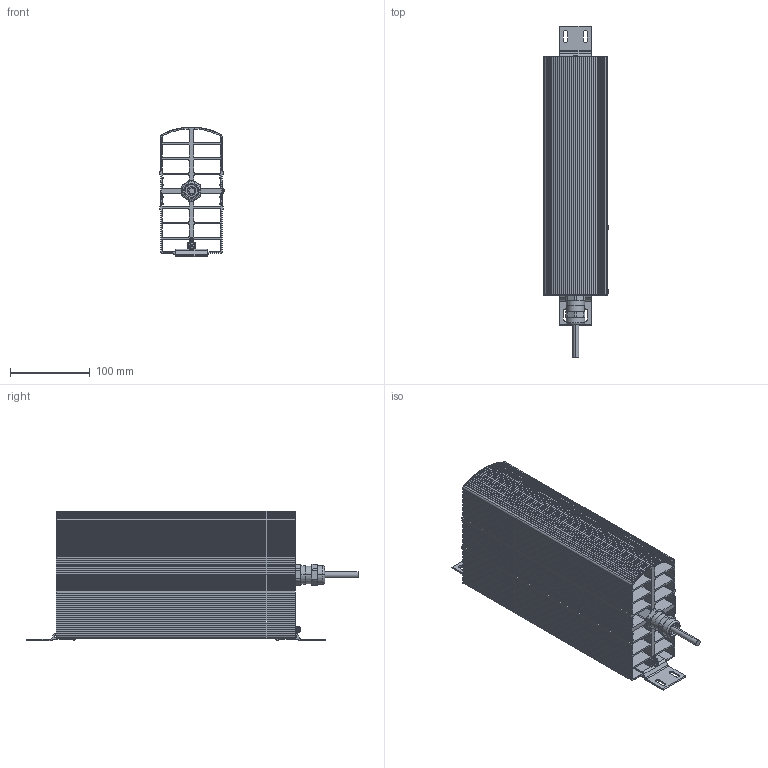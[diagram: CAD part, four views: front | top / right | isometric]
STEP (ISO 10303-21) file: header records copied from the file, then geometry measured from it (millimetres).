
FILE_DESCRIPTION (( 'STEP AP214' ), '1' );
FILE_NAME ('02052.x-1x_Ex-Heizgeraet.STEP', '2017-08-09T14:38:00', ( '' ), ( '' ), 'SwSTEP 2.0', 'SolidWorks 2017', '' );
FILE_SCHEMA (( 'AUTOMOTIVE_DESIGN' ));
Length unit declared in the file: millimetre
Products named in the file (1): 02052.x-1x_Ex-Heizgeraet
Bounding box: 81.42 x 417 x 162.8 mm (x, y, z)
Surface area: 637947.8 mm2 (no closed solid volume)
Topology: 0 solids, 14 shells, 749 faces, 3120 edges, 2206 vertices
Faces by surface type: plane 549, cylinder 174, cone 13, torus 6, sphere 6, bspline 1
Entity records: 40314 total; most frequent: CARTESIAN_POINT 6734, ORIENTED_EDGE 5035, DIRECTION 4964, EDGE_CURVE 3120, VECTOR 2566, LINE 2566, VERTEX_POINT 2206, AXIS2_PLACEMENT_3D 1199
